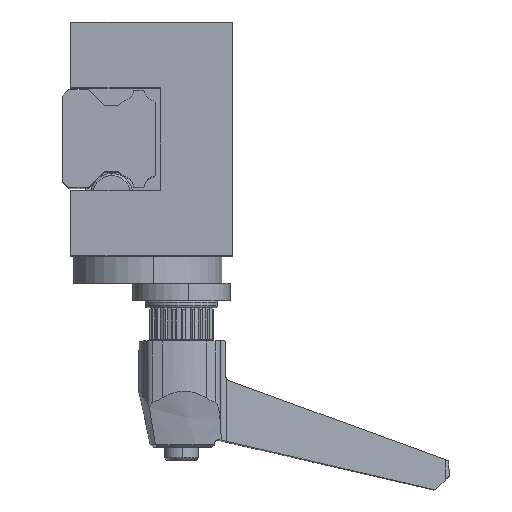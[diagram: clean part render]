
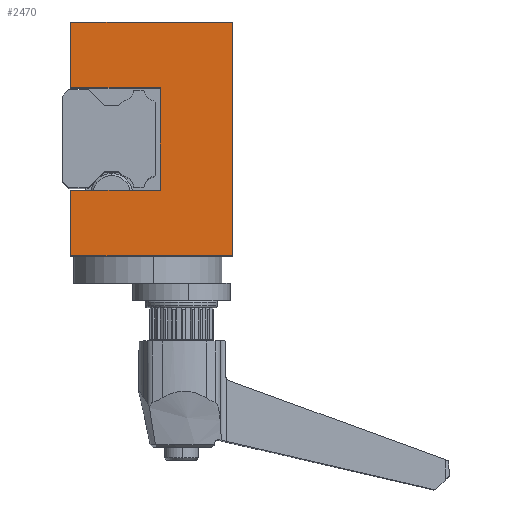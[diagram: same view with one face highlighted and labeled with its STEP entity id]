
A CAD part, top view. The second image highlights one B-rep face of the part: STEP entity #2470.
In plain terms, the highlighted planar face has unit normal (0, 0, 1).
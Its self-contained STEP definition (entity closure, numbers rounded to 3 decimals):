
#173 = LINE ( 'NONE', #1315, #9568 ) ;
#208 = EDGE_CURVE ( 'NONE', #9399, #9594, #173, .T. ) ;
#496 = VECTOR ( 'NONE', #8305, 1000. ) ;
#591 = LINE ( 'NONE', #14038, #2037 ) ;
#866 = VERTEX_POINT ( 'NONE', #9284 ) ;
#934 = CARTESIAN_POINT ( 'NONE',  ( 0., 0., 4.76 ) ) ;
#1301 = DIRECTION ( 'NONE',  ( 0., -1., 0. ) ) ;
#1315 = CARTESIAN_POINT ( 'NONE',  ( -12., -17., 4.76 ) ) ;
#1394 = ORIENTED_EDGE ( 'NONE', *, *, #15460, .T. ) ;
#1638 = LINE ( 'NONE', #14111, #15157 ) ;
#1985 = CARTESIAN_POINT ( 'NONE',  ( -12., -17., 4.76 ) ) ;
#2037 = VECTOR ( 'NONE', #15090, 1000. ) ;
#2102 = ORIENTED_EDGE ( 'NONE', *, *, #8552, .T. ) ;
#2302 = CARTESIAN_POINT ( 'NONE',  ( -12., -17., 4.76 ) ) ;
#2470 = ADVANCED_FACE ( 'NONE', ( #4746 ), #15766, .T. ) ;
#2524 = LINE ( 'NONE', #12394, #11437 ) ;
#3022 = DIRECTION ( 'NONE',  ( 1., 0., 0. ) ) ;
#3053 = CARTESIAN_POINT ( 'NONE',  ( 12., -17., 4.76 ) ) ;
#3482 = CARTESIAN_POINT ( 'NONE',  ( 27.5, 0., 4.76 ) ) ;
#4544 = EDGE_CURVE ( 'NONE', #6695, #9007, #15475, .T. ) ;
#4626 = VERTEX_POINT ( 'NONE', #14666 ) ;
#4721 = CARTESIAN_POINT ( 'NONE',  ( 27.5, -38., 4.76 ) ) ;
#4746 = FACE_OUTER_BOUND ( 'NONE', #12008, .T. ) ;
#5128 = ORIENTED_EDGE ( 'NONE', *, *, #208, .T. ) ;
#5481 = CARTESIAN_POINT ( 'NONE',  ( 27.5, 0., 4.76 ) ) ;
#6124 = VECTOR ( 'NONE', #13044, 1000. ) ;
#6127 = DIRECTION ( 'NONE',  ( 1., 0., 0. ) ) ;
#6345 = VECTOR ( 'NONE', #15353, 1000. ) ;
#6695 = VERTEX_POINT ( 'NONE', #3482 ) ;
#7010 = AXIS2_PLACEMENT_3D ( 'NONE', #934, #7351, #6127 ) ;
#7021 = LINE ( 'NONE', #1985, #496 ) ;
#7351 = DIRECTION ( 'NONE',  ( 0., 0., 1. ) ) ;
#7569 = DIRECTION ( 'NONE',  ( 1., 0., 0. ) ) ;
#8058 = VERTEX_POINT ( 'NONE', #8989 ) ;
#8126 = ORIENTED_EDGE ( 'NONE', *, *, #11908, .T. ) ;
#8245 = ORIENTED_EDGE ( 'NONE', *, *, #15147, .T. ) ;
#8305 = DIRECTION ( 'NONE',  ( 0., 1., 0. ) ) ;
#8552 = EDGE_CURVE ( 'NONE', #9594, #866, #13005, .T. ) ;
#8666 = EDGE_CURVE ( 'NONE', #10889, #6695, #8971, .T. ) ;
#8971 = LINE ( 'NONE', #5481, #6345 ) ;
#8989 = CARTESIAN_POINT ( 'NONE',  ( -12., -38., 4.76 ) ) ;
#9007 = VERTEX_POINT ( 'NONE', #11149 ) ;
#9174 = CARTESIAN_POINT ( 'NONE',  ( -27.5, 0., 4.76 ) ) ;
#9284 = CARTESIAN_POINT ( 'NONE',  ( 12., -38., 4.76 ) ) ;
#9290 = EDGE_CURVE ( 'NONE', #8058, #9399, #7021, .T. ) ;
#9399 = VERTEX_POINT ( 'NONE', #2302 ) ;
#9511 = ORIENTED_EDGE ( 'NONE', *, *, #8666, .T. ) ;
#9568 = VECTOR ( 'NONE', #7569, 1000. ) ;
#9594 = VERTEX_POINT ( 'NONE', #12734 ) ;
#10889 = VERTEX_POINT ( 'NONE', #4721 ) ;
#11149 = CARTESIAN_POINT ( 'NONE',  ( -27.5, 0., 4.76 ) ) ;
#11437 = VECTOR ( 'NONE', #1301, 1000. ) ;
#11908 = EDGE_CURVE ( 'NONE', #866, #10889, #591, .T. ) ;
#12008 = EDGE_LOOP ( 'NONE', ( #1394, #8245, #15085, #5128, #2102, #8126, #9511, #12911 ) ) ;
#12394 = CARTESIAN_POINT ( 'NONE',  ( -27.5, 0., 4.76 ) ) ;
#12686 = DIRECTION ( 'NONE',  ( 0., -1., 0. ) ) ;
#12734 = CARTESIAN_POINT ( 'NONE',  ( 12., -17., 4.76 ) ) ;
#12911 = ORIENTED_EDGE ( 'NONE', *, *, #4544, .T. ) ;
#13005 = LINE ( 'NONE', #3053, #14076 ) ;
#13044 = DIRECTION ( 'NONE',  ( -1., 0., 0. ) ) ;
#14038 = CARTESIAN_POINT ( 'NONE',  ( 12., -38., 4.76 ) ) ;
#14076 = VECTOR ( 'NONE', #12686, 1000. ) ;
#14111 = CARTESIAN_POINT ( 'NONE',  ( -27.5, -38., 4.76 ) ) ;
#14666 = CARTESIAN_POINT ( 'NONE',  ( -27.5, -38., 4.76 ) ) ;
#15085 = ORIENTED_EDGE ( 'NONE', *, *, #9290, .T. ) ;
#15090 = DIRECTION ( 'NONE',  ( 1., 0., 0. ) ) ;
#15147 = EDGE_CURVE ( 'NONE', #4626, #8058, #1638, .T. ) ;
#15157 = VECTOR ( 'NONE', #3022, 1000. ) ;
#15353 = DIRECTION ( 'NONE',  ( 0., 1., 0. ) ) ;
#15460 = EDGE_CURVE ( 'NONE', #9007, #4626, #2524, .T. ) ;
#15475 = LINE ( 'NONE', #9174, #6124 ) ;
#15766 = PLANE ( 'NONE',  #7010 ) ;
